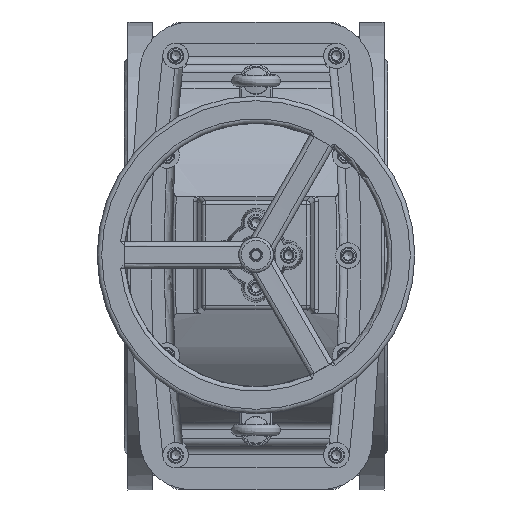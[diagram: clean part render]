
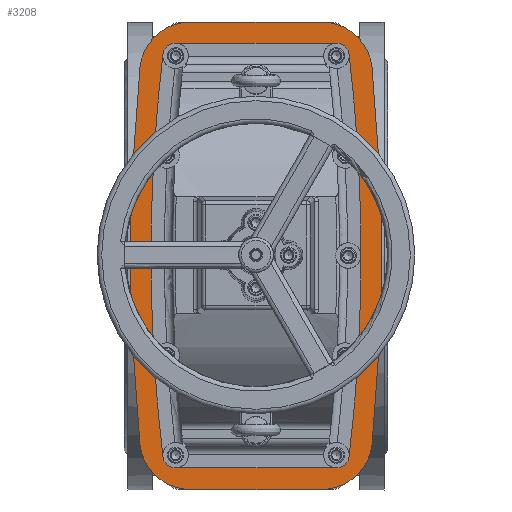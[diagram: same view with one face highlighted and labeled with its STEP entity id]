
A CAD part, top view. The second image highlights one B-rep face of the part: STEP entity #3208.
In plain terms, the highlighted planar face has unit normal (0, 0, 1).
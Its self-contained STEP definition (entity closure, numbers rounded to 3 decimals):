
#3208=ADVANCED_FACE('',(#9882,#9884),#9886,.T.);
#9882=FACE_BOUND('',#9883,.T.);
#9883=EDGE_LOOP('',(#28803,#28804,#28805,#28806,#28807,#28808,#28809,#28810));
#9884=FACE_BOUND('',#9885,.T.);
#9885=EDGE_LOOP('',(#28811,#28812,#28813,#28814,#28815,#28816,#28817,#28818,#28819,
#28820,#28821,#28822,#28823,#28824,#28825,#28826));
#9886=PLANE('',#9887);
#9887=AXIS2_PLACEMENT_3D('',#9888,#9889,#9890);
#9888=CARTESIAN_POINT('',(0.,0.,294.361));
#9889=DIRECTION('',(0.,0.,1.));
#9890=DIRECTION('',(-1.,0.,0.));
#28803=ORIENTED_EDGE('',*,*,#33097,.T.);
#28804=ORIENTED_EDGE('',*,*,#33095,.T.);
#28805=ORIENTED_EDGE('',*,*,#33093,.T.);
#28806=ORIENTED_EDGE('',*,*,#33091,.T.);
#28807=ORIENTED_EDGE('',*,*,#33089,.T.);
#28808=ORIENTED_EDGE('',*,*,#33087,.T.);
#28809=ORIENTED_EDGE('',*,*,#33085,.T.);
#28810=ORIENTED_EDGE('',*,*,#33083,.T.);
#28811=ORIENTED_EDGE('',*,*,#33159,.F.);
#28812=ORIENTED_EDGE('',*,*,#33160,.F.);
#28813=ORIENTED_EDGE('',*,*,#33161,.T.);
#28814=ORIENTED_EDGE('',*,*,#33162,.T.);
#28815=ORIENTED_EDGE('',*,*,#33163,.T.);
#28816=ORIENTED_EDGE('',*,*,#33164,.T.);
#28817=ORIENTED_EDGE('',*,*,#33165,.T.);
#28818=ORIENTED_EDGE('',*,*,#33166,.F.);
#28819=ORIENTED_EDGE('',*,*,#33167,.F.);
#28820=ORIENTED_EDGE('',*,*,#33168,.F.);
#28821=ORIENTED_EDGE('',*,*,#33169,.T.);
#28822=ORIENTED_EDGE('',*,*,#33170,.T.);
#28823=ORIENTED_EDGE('',*,*,#33171,.T.);
#28824=ORIENTED_EDGE('',*,*,#33172,.T.);
#28825=ORIENTED_EDGE('',*,*,#33173,.T.);
#28826=ORIENTED_EDGE('',*,*,#33174,.F.);
#33083=EDGE_CURVE('',#36518,#36516,#36519,.T.);
#33085=EDGE_CURVE('',#36521,#36518,#36522,.T.);
#33087=EDGE_CURVE('',#36524,#36521,#36525,.T.);
#33089=EDGE_CURVE('',#36527,#36524,#36528,.T.);
#33091=EDGE_CURVE('',#36530,#36527,#36531,.T.);
#33093=EDGE_CURVE('',#36533,#36530,#36534,.T.);
#33095=EDGE_CURVE('',#36536,#36533,#36537,.T.);
#33097=EDGE_CURVE('',#36516,#36536,#36539,.T.);
#33159=EDGE_CURVE('',#36662,#36663,#36664,.T.);
#33160=EDGE_CURVE('',#36665,#36662,#36666,.F.);
#33161=EDGE_CURVE('',#36665,#36667,#36668,.F.);
#33162=EDGE_CURVE('',#36667,#36669,#36670,.T.);
#33163=EDGE_CURVE('',#36669,#36671,#36672,.T.);
#33164=EDGE_CURVE('',#36671,#36673,#36674,.T.);
#33165=EDGE_CURVE('',#36673,#36675,#36676,.F.);
#33166=EDGE_CURVE('',#36677,#36675,#36678,.F.);
#33167=EDGE_CURVE('',#36679,#36677,#36680,.T.);
#33168=EDGE_CURVE('',#36681,#36679,#36682,.T.);
#33169=EDGE_CURVE('',#36681,#36683,#36684,.F.);
#33170=EDGE_CURVE('',#36683,#36685,#36686,.T.);
#33171=EDGE_CURVE('',#36685,#36687,#36688,.T.);
#33172=EDGE_CURVE('',#36687,#36689,#36690,.T.);
#33173=EDGE_CURVE('',#36689,#36691,#36692,.F.);
#33174=EDGE_CURVE('',#36663,#36691,#36693,.T.);
#36516=VERTEX_POINT('',#48571);
#36518=VERTEX_POINT('',#48575);
#36519=CIRCLE('',#48576,1896.01);
#36521=VERTEX_POINT('',#48583);
#36522=CIRCLE('',#48584,56.);
#36524=VERTEX_POINT('',#48591);
#36525=LINE('',#48592,#48593);
#36527=VERTEX_POINT('',#48598);
#36528=CIRCLE('',#48599,56.);
#36530=VERTEX_POINT('',#48606);
#36531=CIRCLE('',#48607,1896.01);
#36533=VERTEX_POINT('',#48614);
#36534=CIRCLE('',#48615,56.);
#36536=VERTEX_POINT('',#48622);
#36537=LINE('',#48623,#48624);
#36539=CIRCLE('',#48629,56.);
#36662=VERTEX_POINT('',#48929);
#36663=VERTEX_POINT('',#48930);
#36664=LINE('',#48931,#48932);
#36665=VERTEX_POINT('',#48934);
#36666=LINE('',#48935,#48936);
#36667=VERTEX_POINT('',#48938);
#36668=CIRCLE('',#48939,1848.843);
#36669=VERTEX_POINT('',#48943);
#36670=CIRCLE('',#48944,8.833);
#36671=VERTEX_POINT('',#48948);
#36672=LINE('',#48949,#48950);
#36673=VERTEX_POINT('',#48952);
#36674=CIRCLE('',#48953,8.833);
#36675=VERTEX_POINT('',#48957);
#36676=CIRCLE('',#48958,1848.843);
#36677=VERTEX_POINT('',#48962);
#36678=LINE('',#48963,#48964);
#36679=VERTEX_POINT('',#48966);
#36680=LINE('',#48967,#48968);
#36681=VERTEX_POINT('',#48970);
#36682=LINE('',#48971,#48972);
#36683=VERTEX_POINT('',#48974);
#36684=CIRCLE('',#48975,1848.843);
#36685=VERTEX_POINT('',#48979);
#36686=CIRCLE('',#48980,8.833);
#36687=VERTEX_POINT('',#48984);
#36688=LINE('',#48985,#48986);
#36689=VERTEX_POINT('',#48988);
#36690=CIRCLE('',#48989,8.833);
#36691=VERTEX_POINT('',#48993);
#36692=CIRCLE('',#48994,1848.843);
#36693=LINE('',#48998,#48999);
#48571=CARTESIAN_POINT('',(127.788,207.633,294.361));
#48575=CARTESIAN_POINT('',(127.788,-207.633,294.361));
#48576=AXIS2_PLACEMENT_3D('',#48577,#48578,#48579);
#48577=CARTESIAN_POINT('',(-1756.818,0.,294.361));
#48578=DIRECTION('',(0.,0.,1.));
#48579=DIRECTION('',(0.994,-0.11,0.));
#48583=CARTESIAN_POINT('',(72.125,-257.5,294.361));
#48584=AXIS2_PLACEMENT_3D('',#48585,#48586,#48587);
#48585=CARTESIAN_POINT('',(72.125,-201.5,294.361));
#48586=DIRECTION('',(0.,0.,1.));
#48587=DIRECTION('',(0.,-1.,0.));
#48591=CARTESIAN_POINT('',(-72.125,-257.5,294.361));
#48592=CARTESIAN_POINT('',(-72.125,-257.5,294.361));
#48593=VECTOR('',#48594,1.);
#48594=DIRECTION('',(1.,0.,0.));
#48598=CARTESIAN_POINT('',(-127.788,-207.633,294.361));
#48599=AXIS2_PLACEMENT_3D('',#48600,#48601,#48602);
#48600=CARTESIAN_POINT('',(-72.125,-201.5,294.361));
#48601=DIRECTION('',(0.,0.,1.));
#48602=DIRECTION('',(-0.994,-0.11,0.));
#48606=CARTESIAN_POINT('',(-127.788,207.633,294.361));
#48607=AXIS2_PLACEMENT_3D('',#48608,#48609,#48610);
#48608=CARTESIAN_POINT('',(1756.818,0.,294.361));
#48609=DIRECTION('',(0.,0.,1.));
#48610=DIRECTION('',(-0.994,0.11,0.));
#48614=CARTESIAN_POINT('',(-72.125,257.5,294.361));
#48615=AXIS2_PLACEMENT_3D('',#48616,#48617,#48618);
#48616=CARTESIAN_POINT('',(-72.125,201.5,294.361));
#48617=DIRECTION('',(0.,0.,1.));
#48618=DIRECTION('',(0.,1.,0.));
#48622=CARTESIAN_POINT('',(72.125,257.5,294.361));
#48623=CARTESIAN_POINT('',(72.125,257.5,294.361));
#48624=VECTOR('',#48625,1.);
#48625=DIRECTION('',(-1.,0.,0.));
#48629=AXIS2_PLACEMENT_3D('',#48630,#48631,#48632);
#48630=CARTESIAN_POINT('',(72.125,201.5,294.361));
#48631=DIRECTION('',(0.,0.,1.));
#48632=DIRECTION('',(0.994,0.11,0.));
#48929=CARTESIAN_POINT('',(110.608,-4.417,294.361));
#48930=CARTESIAN_POINT('',(110.608,4.417,294.361));
#48931=CARTESIAN_POINT('',(110.608,-4.417,294.361));
#48932=VECTOR('',#48933,1.);
#48933=DIRECTION('',(0.,1.,0.));
#48934=CARTESIAN_POINT('',(92.02,-4.417,294.361));
#48935=CARTESIAN_POINT('',(110.608,-4.417,294.361));
#48936=VECTOR('',#48937,1.);
#48937=DIRECTION('',(-1.,0.,0.));
#48938=CARTESIAN_POINT('',(80.905,-202.467,294.361));
#48939=AXIS2_PLACEMENT_3D('',#48940,#48941,#48942);
#48940=CARTESIAN_POINT('',(-1756.818,0.,294.361));
#48941=DIRECTION('',(0.,0.,1.));
#48942=DIRECTION('',(0.994,-0.11,0.));
#48943=CARTESIAN_POINT('',(72.125,-210.333,294.361));
#48944=AXIS2_PLACEMENT_3D('',#48945,#48946,#48947);
#48945=CARTESIAN_POINT('',(72.125,-201.5,294.361));
#48946=DIRECTION('',(0.,0.,-1.));
#48947=DIRECTION('',(0.994,-0.11,0.));
#48948=CARTESIAN_POINT('',(-72.125,-210.333,294.361));
#48949=CARTESIAN_POINT('',(72.125,-210.333,294.361));
#48950=VECTOR('',#48951,1.);
#48951=DIRECTION('',(-1.,0.,0.));
#48952=CARTESIAN_POINT('',(-80.905,-202.467,294.361));
#48953=AXIS2_PLACEMENT_3D('',#48954,#48955,#48956);
#48954=CARTESIAN_POINT('',(-72.125,-201.5,294.361));
#48955=DIRECTION('',(0.,0.,-1.));
#48956=DIRECTION('',(0.,-1.,0.));
#48957=CARTESIAN_POINT('',(-92.02,-4.417,294.361));
#48958=AXIS2_PLACEMENT_3D('',#48959,#48960,#48961);
#48959=CARTESIAN_POINT('',(1756.818,0.,294.361));
#48960=DIRECTION('',(0.,0.,1.));
#48961=DIRECTION('',(-1.,-0.002,0.));
#48962=CARTESIAN_POINT('',(-110.608,-4.417,294.361));
#48963=CARTESIAN_POINT('',(-92.02,-4.417,294.361));
#48964=VECTOR('',#48965,1.);
#48965=DIRECTION('',(-1.,0.,0.));
#48966=CARTESIAN_POINT('',(-110.608,4.417,294.361));
#48967=CARTESIAN_POINT('',(-110.608,4.417,294.361));
#48968=VECTOR('',#48969,1.);
#48969=DIRECTION('',(0.,-1.,0.));
#48970=CARTESIAN_POINT('',(-92.02,4.417,294.361));
#48971=CARTESIAN_POINT('',(-92.02,4.417,294.361));
#48972=VECTOR('',#48973,1.);
#48973=DIRECTION('',(-1.,0.,0.));
#48974=CARTESIAN_POINT('',(-80.905,202.467,294.361));
#48975=AXIS2_PLACEMENT_3D('',#48976,#48977,#48978);
#48976=CARTESIAN_POINT('',(1756.818,0.,294.361));
#48977=DIRECTION('',(0.,0.,1.));
#48978=DIRECTION('',(-0.994,0.11,0.));
#48979=CARTESIAN_POINT('',(-72.125,210.333,294.361));
#48980=AXIS2_PLACEMENT_3D('',#48981,#48982,#48983);
#48981=CARTESIAN_POINT('',(-72.125,201.5,294.361));
#48982=DIRECTION('',(0.,0.,-1.));
#48983=DIRECTION('',(-0.994,0.11,0.));
#48984=CARTESIAN_POINT('',(72.125,210.333,294.361));
#48985=CARTESIAN_POINT('',(-72.125,210.333,294.361));
#48986=VECTOR('',#48987,1.);
#48987=DIRECTION('',(1.,0.,0.));
#48988=CARTESIAN_POINT('',(80.905,202.467,294.361));
#48989=AXIS2_PLACEMENT_3D('',#48990,#48991,#48992);
#48990=CARTESIAN_POINT('',(72.125,201.5,294.361));
#48991=DIRECTION('',(0.,0.,-1.));
#48992=DIRECTION('',(0.,1.,0.));
#48993=CARTESIAN_POINT('',(92.02,4.417,294.361));
#48994=AXIS2_PLACEMENT_3D('',#48995,#48996,#48997);
#48995=CARTESIAN_POINT('',(-1756.818,0.,294.361));
#48996=DIRECTION('',(0.,0.,1.));
#48997=DIRECTION('',(1.,0.002,0.));
#48998=CARTESIAN_POINT('',(110.608,4.417,294.361));
#48999=VECTOR('',#49000,1.);
#49000=DIRECTION('',(-1.,0.,0.));
